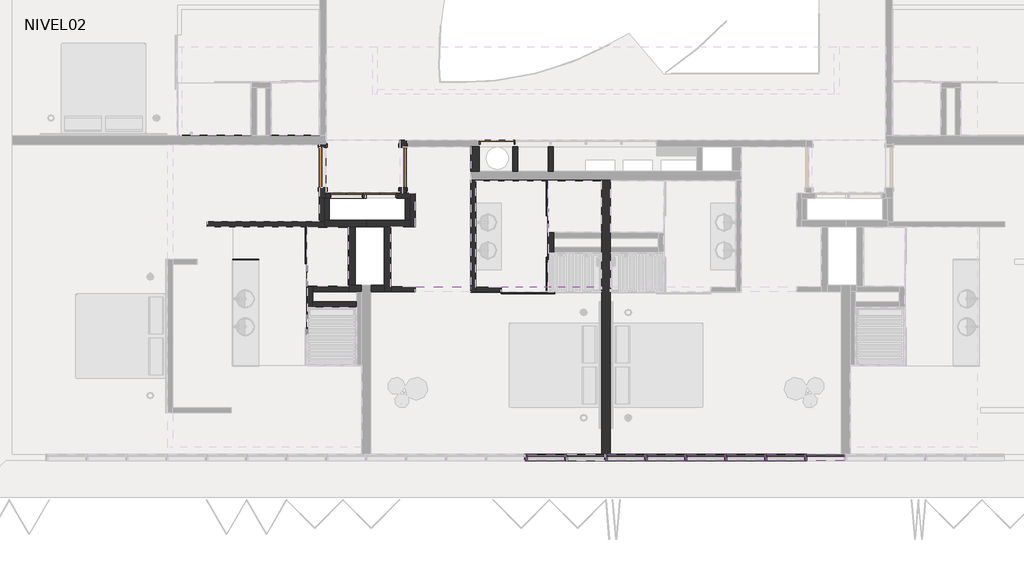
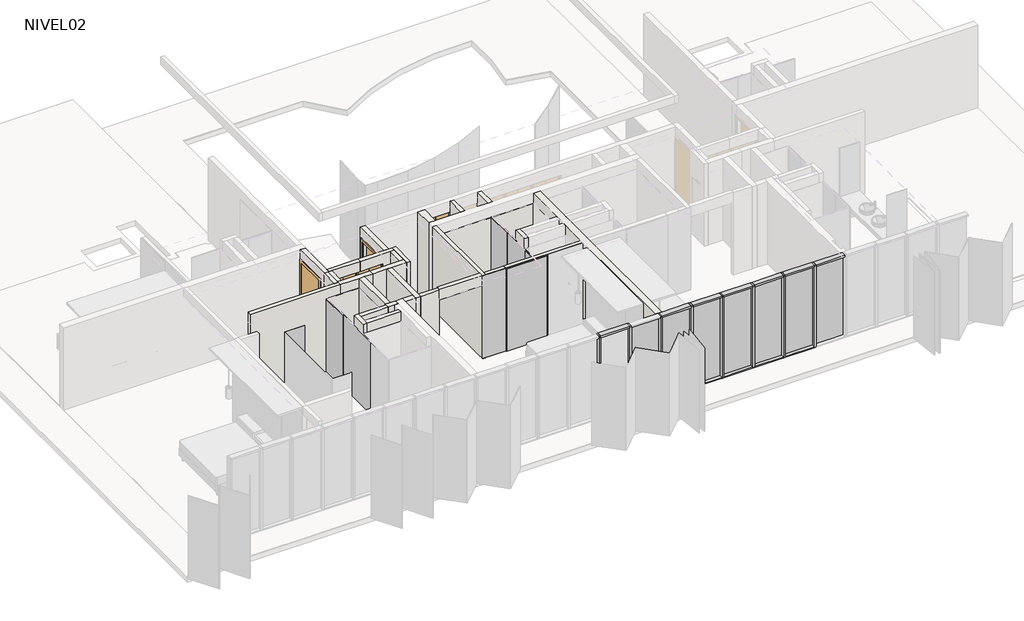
# One storey, part 2 of 9: 36 walls, 22 members, 15 plates, 5 doors.
"""IFC4 building model written with IfcOpenShell, lengths in millimetres."""

from ifc_helpers import new_model, si_unit, frame, origin, place, context, project, spatial, polyline, outline, extrude, faceted_brep, transform, mapped, element, save
from components import m_single_flush_910x_224_a4f79d59, m_single_flush_910x_224_d199ccfa, puerta_closet_shaft_75_x_232cm_9b8c6cb1, puerta_closet_shaft_75_x_232cm_f7ce9964, puerta_closet_shaft_80_x_232cm_003f94e8, rectangular_mullion_50_x_150mm_324a6438, rectangular_mullion_50_x_150mm_33c2bde1, panel_corredera_cr_panel_corredera_e449a94a, panel_corredera_cr_panel_corredera_4796692a, panel_corredera_cr_panel_corredera_db6cee18, panel_corredera_cr_panel_corredera_0b5135b5, system_panel_cr_shower_306accba, system_panel_cr_shower_4114597a, system_panel_cr_shower_91ed7f58, system_panel_cr_shower_c062e60c, system_panel_glazed_6ccc6dc1

model = new_model("IFC4")

# Units and contexts
model_context = context("Model", 3, world=origin())
ifc_project = project(units=[si_unit("LENGTHUNIT", "METRE", prefix="MILLI")], contexts=[model_context])

# Site, building, storey
site = spatial("IfcSite", under=ifc_project)
building = spatial("IfcBuilding", under=site)
storey = spatial("IfcBuildingStorey", under=building, Name="NIVEL02", Elevation=2500.0)

# Doors
placement = place(None, origin())
m_single_flush_910x_224_shape = m_single_flush_910x_224_a4f79d59(model_context)
element("IfcDoor", 1, ObjectType="M_Single-Flush : 910x 224", at=placement, inside=storey, context=model_context, shape_type="MappedRepresentation", body=[
    mapped(m_single_flush_910x_224_shape, transform((-13568.5934748, -883.5860759, 2500.0), x_axis=(0.0, 1.0, 0.0), y_axis=(-1.0, 0.0, 0.0), z_axis=(0.0, 0.0, 1.0))),
])
m_single_flush_910x_224_2_shape = m_single_flush_910x_224_d199ccfa(model_context)
element("IfcDoor", 2, ObjectType="M_Single-Flush : 910x 224", at=placement, inside=storey, context=model_context, shape_type="MappedRepresentation", body=[
    mapped(m_single_flush_910x_224_2_shape, transform((-11758.5934748, -883.5860759, 2500.0), x_axis=(0.0, 1.0, 0.0), y_axis=(-1.0, 0.0, 0.0), z_axis=(0.0, 0.0, 1.0))),
])
puerta_closet_shaft_75_x_232cm_shape = puerta_closet_shaft_75_x_232cm_9b8c6cb1(model_context)
element("IfcDoor", 3, ObjectType="PUERTA CLOSET SHAFT : 75 x 232cm", at=placement, inside=storey, context=model_context, shape_type="MappedRepresentation", body=[
    mapped(puerta_closet_shaft_75_x_232cm_shape, transform((-11887.061904, -1521.0860759, 2500.0), x_axis=(1.0, 0.0, 0.0), y_axis=(0.0, 1.0, 0.0), z_axis=(0.0, 0.0, 1.0))),
])
puerta_closet_shaft_75_x_232cm_2_shape = puerta_closet_shaft_75_x_232cm_f7ce9964(model_context)
element("IfcDoor", 4, ObjectType="PUERTA CLOSET SHAFT : 75 x 232cm", at=placement, inside=storey, context=model_context, shape_type="MappedRepresentation", body=[
    mapped(puerta_closet_shaft_75_x_232cm_2_shape, transform((-13420.1250457, -1521.0860759, 2500.0), x_axis=(-1.0, 0.0, 0.0), y_axis=(0.0, -1.0, 0.0), z_axis=(0.0, 0.0, 1.0))),
])
puerta_closet_shaft_80_x_232cm_shape = puerta_closet_shaft_80_x_232cm_003f94e8(model_context)
element("IfcDoor", 5, ObjectType="PUERTA CLOSET SHAFT : 80 x 232cm", at=placement, inside=storey, context=model_context, shape_type="MappedRepresentation", body=[
    mapped(puerta_closet_shaft_80_x_232cm_shape, transform((-8492.061904, -341.0860759, 2500.0), x_axis=(1.0, 0.0, 0.0), y_axis=(0.0, 1.0, 0.0), z_axis=(0.0, 0.0, 1.0))),
])

# Members
rectangular_mullion_50_x_150mm_shape = rectangular_mullion_50_x_150mm_324a6438(model_context)
element("IfcMember", 6, ObjectType="Rectangular Mullion : 50 x 150mm", at=placement, inside=storey, context=model_context, shape_type="MappedRepresentation", body=[
    mapped(rectangular_mullion_50_x_150mm_shape, transform((-2658.5934748, -7416.0860759, 5050.0), x_axis=(0.0, 0.0, 1.0), y_axis=(0.0, 1.0, 0.0), z_axis=(-1.0, 0.0, 0.0))),
])
element("IfcMember", 7, ObjectType="Rectangular Mullion : 50 x 150mm", at=placement, inside=storey, context=model_context, shape_type="MappedRepresentation", body=[
    mapped(rectangular_mullion_50_x_150mm_shape, transform((-3558.5934748, -7416.0860759, 5050.0), x_axis=(0.0, 0.0, 1.0), y_axis=(0.0, 1.0, 0.0), z_axis=(-1.0, 0.0, 0.0))),
])
element("IfcMember", 8, ObjectType="Rectangular Mullion : 50 x 150mm", at=placement, inside=storey, context=model_context, shape_type="MappedRepresentation", body=[
    mapped(rectangular_mullion_50_x_150mm_shape, transform((-4458.5934748, -7416.0860759, 5050.0), x_axis=(0.0, 0.0, 1.0), y_axis=(0.0, 1.0, 0.0), z_axis=(-1.0, 0.0, 0.0))),
])
element("IfcMember", 9, ObjectType="Rectangular Mullion : 50 x 150mm", at=placement, inside=storey, context=model_context, shape_type="MappedRepresentation", body=[
    mapped(rectangular_mullion_50_x_150mm_shape, transform((-5358.5934748, -7416.0860759, 5050.0), x_axis=(0.0, 0.0, 1.0), y_axis=(0.0, 1.0, 0.0), z_axis=(-1.0, 0.0, 0.0))),
])
element("IfcMember", 10, ObjectType="Rectangular Mullion : 50 x 150mm", at=placement, inside=storey, context=model_context, shape_type="MappedRepresentation", body=[
    mapped(rectangular_mullion_50_x_150mm_shape, transform((-6258.5934748, -7416.0860759, 5050.0), x_axis=(0.0, 0.0, 1.0), y_axis=(0.0, 1.0, 0.0), z_axis=(-1.0, 0.0, 0.0))),
])
element("IfcMember", 11, ObjectType="Rectangular Mullion : 50 x 150mm", at=placement, inside=storey, context=model_context, shape_type="MappedRepresentation", body=[
    mapped(rectangular_mullion_50_x_150mm_shape, transform((-7158.5934748, -7416.0860759, 5050.0), x_axis=(0.0, 0.0, 1.0), y_axis=(0.0, 1.0, 0.0), z_axis=(-1.0, 0.0, 0.0))),
])
element("IfcMember", 12, ObjectType="Rectangular Mullion : 50 x 150mm", at=placement, inside=storey, context=model_context, shape_type="MappedRepresentation", body=[
    mapped(rectangular_mullion_50_x_150mm_shape, transform((-8958.5934748, -7416.0860759, 5050.0), x_axis=(0.0, 0.0, 1.0), y_axis=(0.0, 1.0, 0.0), z_axis=(-1.0, 0.0, 0.0))),
])
element("IfcMember", 13, ObjectType="Rectangular Mullion : 50 x 150mm", at=placement, inside=storey, context=model_context, shape_type="MappedRepresentation", body=[
    mapped(rectangular_mullion_50_x_150mm_shape, transform((-2708.5934748, -7416.0860759, 2480.0), x_axis=(0.0, 0.0, -1.0), y_axis=(0.0, 1.0, 0.0), z_axis=(1.0, 0.0, 0.0))),
])
element("IfcMember", 14, ObjectType="Rectangular Mullion : 50 x 150mm", at=placement, inside=storey, context=model_context, shape_type="MappedRepresentation", body=[
    mapped(rectangular_mullion_50_x_150mm_shape, transform((-3608.5934748, -7416.0860759, 2480.0), x_axis=(0.0, 0.0, -1.0), y_axis=(0.0, 1.0, 0.0), z_axis=(1.0, 0.0, 0.0))),
])
element("IfcMember", 15, ObjectType="Rectangular Mullion : 50 x 150mm", at=placement, inside=storey, context=model_context, shape_type="MappedRepresentation", body=[
    mapped(rectangular_mullion_50_x_150mm_shape, transform((-4508.5934748, -7416.0860759, 2480.0), x_axis=(0.0, 0.0, -1.0), y_axis=(0.0, 1.0, 0.0), z_axis=(1.0, 0.0, 0.0))),
])
element("IfcMember", 16, ObjectType="Rectangular Mullion : 50 x 150mm", at=placement, inside=storey, context=model_context, shape_type="MappedRepresentation", body=[
    mapped(rectangular_mullion_50_x_150mm_shape, transform((-5408.5934748, -7416.0860759, 2480.0), x_axis=(0.0, 0.0, -1.0), y_axis=(0.0, 1.0, 0.0), z_axis=(1.0, 0.0, 0.0))),
])
element("IfcMember", 17, ObjectType="Rectangular Mullion : 50 x 150mm", at=placement, inside=storey, context=model_context, shape_type="MappedRepresentation", body=[
    mapped(rectangular_mullion_50_x_150mm_shape, transform((-6308.5934748, -7416.0860759, 2480.0), x_axis=(0.0, 0.0, -1.0), y_axis=(0.0, 1.0, 0.0), z_axis=(1.0, 0.0, 0.0))),
])
element("IfcMember", 18, ObjectType="Rectangular Mullion : 50 x 150mm", at=placement, inside=storey, context=model_context, shape_type="MappedRepresentation", body=[
    mapped(rectangular_mullion_50_x_150mm_shape, transform((-7208.5934748, -7416.0860759, 2480.0), x_axis=(0.0, 0.0, -1.0), y_axis=(0.0, 1.0, 0.0), z_axis=(1.0, 0.0, 0.0))),
])
element("IfcMember", 19, ObjectType="Rectangular Mullion : 50 x 150mm", at=placement, inside=storey, context=model_context, shape_type="MappedRepresentation", body=[
    mapped(rectangular_mullion_50_x_150mm_shape, transform((-8108.5934748, -7416.0860759, 2480.0), x_axis=(0.0, 0.0, -1.0), y_axis=(0.0, 1.0, 0.0), z_axis=(1.0, 0.0, 0.0))),
])
rectangular_mullion_50_x_150mm_2_shape = rectangular_mullion_50_x_150mm_33c2bde1(model_context)
element("IfcMember", 20, ObjectType="Rectangular Mullion : 50 x 150mm", at=placement, inside=storey, context=model_context, shape_type="MappedRepresentation", body=[
    mapped(rectangular_mullion_50_x_150mm_2_shape, transform((-2683.5934748, -7416.0860759, 2480.0), x_axis=(-1.0, 0.0, 0.0), y_axis=(0.0, 1.0, 0.0), z_axis=(0.0, 0.0, -1.0))),
])
element("IfcMember", 21, ObjectType="Rectangular Mullion : 50 x 150mm", at=placement, inside=storey, context=model_context, shape_type="MappedRepresentation", body=[
    mapped(rectangular_mullion_50_x_150mm_2_shape, transform((-3583.5934748, -7416.0860759, 2480.0), x_axis=(-1.0, 0.0, 0.0), y_axis=(0.0, 1.0, 0.0), z_axis=(0.0, 0.0, -1.0))),
])
element("IfcMember", 22, ObjectType="Rectangular Mullion : 50 x 150mm", at=placement, inside=storey, context=model_context, shape_type="MappedRepresentation", body=[
    mapped(rectangular_mullion_50_x_150mm_2_shape, transform((-4483.5934748, -7416.0860759, 2480.0), x_axis=(-1.0, 0.0, 0.0), y_axis=(0.0, 1.0, 0.0), z_axis=(0.0, 0.0, -1.0))),
])
element("IfcMember", 23, ObjectType="Rectangular Mullion : 50 x 150mm", at=placement, inside=storey, context=model_context, shape_type="MappedRepresentation", body=[
    mapped(rectangular_mullion_50_x_150mm_2_shape, transform((-5383.5934748, -7416.0860759, 2480.0), x_axis=(-1.0, 0.0, 0.0), y_axis=(0.0, 1.0, 0.0), z_axis=(0.0, 0.0, -1.0))),
])
element("IfcMember", 24, ObjectType="Rectangular Mullion : 50 x 150mm", at=placement, inside=storey, context=model_context, shape_type="MappedRepresentation", body=[
    mapped(rectangular_mullion_50_x_150mm_2_shape, transform((-6283.5934748, -7416.0860759, 2480.0), x_axis=(-1.0, 0.0, 0.0), y_axis=(0.0, 1.0, 0.0), z_axis=(0.0, 0.0, -1.0))),
])
element("IfcMember", 25, ObjectType="Rectangular Mullion : 50 x 150mm", at=placement, inside=storey, context=model_context, shape_type="MappedRepresentation", body=[
    mapped(rectangular_mullion_50_x_150mm_2_shape, transform((-7183.5934748, -7416.0860759, 2480.0), x_axis=(-1.0, 0.0, 0.0), y_axis=(0.0, 1.0, 0.0), z_axis=(0.0, 0.0, -1.0))),
])
element("IfcMember", 26, ObjectType="Rectangular Mullion : 50 x 150mm", at=placement, inside=storey, context=model_context, shape_type="MappedRepresentation", body=[
    mapped(rectangular_mullion_50_x_150mm_2_shape, transform((-8083.5934748, -7416.0860759, 2480.0), x_axis=(-1.0, 0.0, 0.0), y_axis=(0.0, 1.0, 0.0), z_axis=(0.0, 0.0, -1.0))),
])
element("IfcMember", 27, ObjectType="Rectangular Mullion : 50 x 150mm", at=placement, inside=storey, context=model_context, shape_type="MappedRepresentation", body=[
    mapped(rectangular_mullion_50_x_150mm_2_shape, transform((-8983.5934748, -7416.0860759, 2480.0), x_axis=(-1.0, 0.0, 0.0), y_axis=(0.0, 1.0, 0.0), z_axis=(0.0, 0.0, -1.0))),
])

# Plates
panel_corredera_cr_panel_corredera_shape = panel_corredera_cr_panel_corredera_e449a94a(model_context)
element("IfcPlate", 28, ObjectType="PANEL CORREDERA : CR_PANEL CORREDERA", at=placement, inside=storey, context=model_context, shape_type="MappedRepresentation", body=[
    mapped(panel_corredera_cr_panel_corredera_shape, transform((-13913.6434748, -2560.8259695, 2500.0), x_axis=(0.0, -1.0, 0.0), y_axis=(1.0, 0.0, 0.0), z_axis=(0.0, 0.0, 1.0))),
])
panel_corredera_cr_panel_corredera_2_shape = panel_corredera_cr_panel_corredera_4796692a(model_context)
element("IfcPlate", 29, ObjectType="PANEL CORREDERA : CR_PANEL CORREDERA", at=placement, inside=storey, context=model_context, shape_type="MappedRepresentation", body=[
    mapped(panel_corredera_cr_panel_corredera_2_shape, transform((-8483.5947993, -3371.0862189, 2500.0), x_axis=(0.0, 1.0, 0.0), y_axis=(-1.0, 0.0, 0.0), z_axis=(0.0, 0.0, 1.0))),
])
panel_corredera_cr_panel_corredera_3_shape = panel_corredera_cr_panel_corredera_db6cee18(model_context)
element("IfcPlate", 30, ObjectType="PANEL CORREDERA : CR_PANEL CORREDERA", at=placement, inside=storey, context=model_context, shape_type="MappedRepresentation", body=[
    mapped(panel_corredera_cr_panel_corredera_3_shape, transform((-8483.5947993, -1491.0860759, 2500.0), x_axis=(0.0, -1.0, 0.0), y_axis=(1.0, 0.0, 0.0), z_axis=(0.0, 0.0, 1.0))),
])
panel_corredera_cr_panel_corredera_4_shape = panel_corredera_cr_panel_corredera_0b5135b5(model_context)
element("IfcPlate", 31, ObjectType="PANEL CORREDERA : CR_PANEL CORREDERA", at=placement, inside=storey, context=model_context, shape_type="MappedRepresentation", body=[
    mapped(panel_corredera_cr_panel_corredera_4_shape, transform((-9013.5934748, -3686.0862189, 2500.0), x_axis=(1.0, 0.0, 0.0), y_axis=(0.0, 1.0, 0.0), z_axis=(0.0, 0.0, 1.0))),
])
system_panel_cr_shower_shape = system_panel_cr_shower_306accba(model_context)
element("IfcPlate", 32, ObjectType="System Panel : CR-SHOWER", at=placement, inside=storey, context=model_context, shape_type="MappedRepresentation", body=[
    mapped(system_panel_cr_shower_shape, transform((-9888.5934748, -3686.0862189, 2500.0), x_axis=(-1.0, 0.0, 0.0), y_axis=(0.0, -1.0, 0.0), z_axis=(0.0, 0.0, 1.0))),
])
system_panel_cr_shower_2_shape = system_panel_cr_shower_4114597a(model_context)
element("IfcPlate", 33, ObjectType="System Panel : CR-SHOWER", at=placement, inside=storey, context=model_context, shape_type="MappedRepresentation", body=[
    mapped(system_panel_cr_shower_2_shape, transform((-15303.5934748, -2966.0860763, 2500.0), x_axis=(-1.0, 0.0, 0.0), y_axis=(0.0, -1.0, 0.0), z_axis=(0.0, 0.0, 1.0))),
])
system_panel_cr_shower_3_shape = system_panel_cr_shower_91ed7f58(model_context)
element("IfcPlate", 34, ObjectType="System Panel : CR-SHOWER", at=placement, inside=storey, context=model_context, shape_type="MappedRepresentation", body=[
    mapped(system_panel_cr_shower_3_shape, transform((-13913.6434748, -3776.2845441, 2500.0), x_axis=(0.0, 1.0, 0.0), y_axis=(-1.0, 0.0, 0.0), z_axis=(0.0, 0.0, 1.0))),
])
system_panel_cr_shower_4_shape = system_panel_cr_shower_c062e60c(model_context)
element("IfcPlate", 35, ObjectType="System Panel : CR-SHOWER", at=placement, inside=storey, context=model_context, shape_type="MappedRepresentation", body=[
    mapped(system_panel_cr_shower_4_shape, transform((-8483.5947993, -2436.0861474, 2500.0), x_axis=(0.0, 1.0, 0.0), y_axis=(-1.0, 0.0, 0.0), z_axis=(0.0, 0.0, 1.0))),
])
system_panel_glazed_shape = system_panel_glazed_6ccc6dc1(model_context)
element("IfcPlate", 36, ObjectType="System Panel : Glazed", at=placement, inside=storey, context=model_context, shape_type="MappedRepresentation", body=[
    mapped(system_panel_glazed_shape, transform((-2233.5934748, -7416.0860759, 2530.0), x_axis=(-1.0, 0.0, 0.0), y_axis=(0.0, -1.0, 0.0), z_axis=(0.0, 0.0, 1.0))),
])
element("IfcPlate", 37, ObjectType="System Panel : Glazed", at=placement, inside=storey, context=model_context, shape_type="MappedRepresentation", body=[
    mapped(system_panel_glazed_shape, transform((-3133.5934748, -7416.0860759, 2530.0), x_axis=(-1.0, 0.0, 0.0), y_axis=(0.0, -1.0, 0.0), z_axis=(0.0, 0.0, 1.0))),
])
element("IfcPlate", 38, ObjectType="System Panel : Glazed", at=placement, inside=storey, context=model_context, shape_type="MappedRepresentation", body=[
    mapped(system_panel_glazed_shape, transform((-4033.5934748, -7416.0860759, 2530.0), x_axis=(-1.0, 0.0, 0.0), y_axis=(0.0, -1.0, 0.0), z_axis=(0.0, 0.0, 1.0))),
])
element("IfcPlate", 39, ObjectType="System Panel : Glazed", at=placement, inside=storey, context=model_context, shape_type="MappedRepresentation", body=[
    mapped(system_panel_glazed_shape, transform((-4933.5934748, -7416.0860759, 2530.0), x_axis=(-1.0, 0.0, 0.0), y_axis=(0.0, -1.0, 0.0), z_axis=(0.0, 0.0, 1.0))),
])
element("IfcPlate", 40, ObjectType="System Panel : Glazed", at=placement, inside=storey, context=model_context, shape_type="MappedRepresentation", body=[
    mapped(system_panel_glazed_shape, transform((-5833.5934748, -7416.0860759, 2530.0), x_axis=(-1.0, 0.0, 0.0), y_axis=(0.0, -1.0, 0.0), z_axis=(0.0, 0.0, 1.0))),
])
element("IfcPlate", 41, ObjectType="System Panel : Glazed", at=placement, inside=storey, context=model_context, shape_type="MappedRepresentation", body=[
    mapped(system_panel_glazed_shape, transform((-6733.5934748, -7416.0860759, 2530.0), x_axis=(-1.0, 0.0, 0.0), y_axis=(0.0, -1.0, 0.0), z_axis=(0.0, 0.0, 1.0))),
])
element("IfcPlate", 42, ObjectType="System Panel : Glazed", at=placement, inside=storey, context=model_context, shape_type="MappedRepresentation", body=[
    mapped(system_panel_glazed_shape, transform((-7633.5934748, -7416.0860759, 2530.0), x_axis=(-1.0, 0.0, 0.0), y_axis=(0.0, -1.0, 0.0), z_axis=(0.0, 0.0, 1.0))),
])

# Walls
element("IfcWall", 43, ObjectType="SCV.TI.A.110.090.143.47.1", at=placement, inside=storey, context=model_context, shape_type="SweptSolid", body=[
    extrude(outline(polyline([(-9283.5934748, -966.0860759), (-9283.5934748, -416.0860759), (-9173.5934748, -416.0860759), (-9173.5934748, -966.0860759), (-9283.5934748, -966.0860759)])), frame((0.0, 0.0, 2480.0), z_axis=(0.0, 0.0, 1.0), x_axis=(1.0, 0.0, 0.0)), (0.0, 0.0, 1.0), 2570.0),
])
element("IfcWall", 44, ObjectType="SCV.TI.A.110.090.143.47.1", at=placement, inside=storey, context=model_context, shape_type="Brep", body=[
    faceted_brep([(-13533.5934748, -2106.0860759, 2480.0), (-13643.5934748, -2106.0860759, 2480.0), (-16173.5934748, -2106.0860759, 2480.0), (-16173.5934748, -2106.0860759, 5050.0), (-13643.5934748, -2106.0860759, 5050.0), (-13533.5934748, -2106.0860759, 5050.0), (-13533.5934748, -2216.0860759, 2480.0), (-13533.5934748, -2216.0860759, 5050.0), (-16173.5934748, -2216.0860759, 5050.0), (-16173.5934748, -2216.0860759, 2480.0)], [[[0, 1, 2, 3, 4, 5]], [[6, 7, 8, 9]], [[2, 1, 0, 6, 9]], [[3, 2, 9, 8]], [[5, 4, 3, 8, 7]], [[0, 5, 7, 6]]]),
])
element("IfcWall", 45, ObjectType="SCV.TI.A.120.120.122.46.2", at=placement, inside=storey, context=model_context, shape_type="SweptSolid", body=[
    extrude(outline(polyline([(-13793.5934748, -3906.0862189), (-12803.5934748, -3906.0862189), (-12803.5934748, -4026.0862189), (-13793.5934748, -4026.0862189), (-13793.5934748, -3906.0862189)])), frame((0.0, 0.0, 2480.0), z_axis=(0.0, 0.0, 1.0), x_axis=(1.0, 0.0, 0.0)), (0.0, 0.0, 1.0), 2570.0),
])
element("IfcWall", 46, ObjectType="SCV.TI.A.120.120.122.46.2", at=placement, inside=storey, context=model_context, shape_type="Brep", body=[
    faceted_brep([(-13793.5934748, -4026.0862189, 2480.0), (-13793.5934748, -3906.0862189, 2480.0), (-13793.5934748, -3686.0862189, 2480.0), (-13793.5934748, -3566.0862189, 2480.0), (-13793.5934748, -3566.0862189, 5050.0), (-13793.5934748, -3686.0862189, 5050.0), (-13793.5934748, -3906.0862189, 5050.0), (-13793.5934748, -4026.0862189, 5050.0), (-13913.5934748, -4026.0862189, 2480.0), (-13913.5934748, -4026.0862189, 5050.0), (-13913.5934748, -3566.0862189, 5050.0), (-13913.5934748, -3566.0862189, 2480.0)], [[[0, 1, 2, 3, 4, 5, 6, 7]], [[8, 9, 10, 11]], [[3, 2, 1, 0, 8, 11]], [[7, 6, 5, 4, 10, 9]], [[4, 3, 11, 10]], [[0, 7, 9, 8]]]),
])
element("IfcWall", 47, ObjectType="SCV.TI.A.120.120.122.46.2", at=placement, inside=storey, context=model_context, shape_type="SweptSolid", body=[
    extrude(outline(polyline([(-12983.5934748, -3686.0862189), (-13793.5934748, -3686.0862189), (-13793.5934748, -3566.0862189), (-12983.5934748, -3566.0862189), (-12983.5934748, -3686.0862189)])), frame((0.0, 0.0, 2480.0), z_axis=(0.0, 0.0, 1.0), x_axis=(1.0, 0.0, 0.0)), (0.0, 0.0, 1.0), 2570.0),
])
element("IfcWall", 48, ObjectType="SCV.TI.A.110.090.143.47.1", at=placement, inside=storey, context=model_context, shape_type="Brep", body=[
    faceted_brep([(-13493.5934748, -1576.0860759, 2480.0), (-13423.5934748, -1576.0860759, 2480.0), (-12589.1569667, -1576.0860759, 2480.0), (-12589.1569667, -1576.0860759, 2500.0), (-13403.5934748, -1576.0860759, 2500.0), (-13403.5934748, -1576.0860759, 4740.0), (-12589.1569667, -1576.0860759, 4740.0), (-12589.1569667, -1576.0860759, 5050.0), (-13423.5934748, -1576.0860759, 5050.0), (-13493.5934748, -1576.0860759, 5050.0), (-12589.1569667, -1466.0860759, 2480.0), (-13493.5934748, -1466.0860759, 2480.0), (-13493.5934748, -1466.0860759, 5050.0), (-12589.1569667, -1466.0860759, 5050.0), (-12589.1569667, -1466.0860759, 4740.0), (-13403.5934748, -1466.0860759, 4740.0), (-13403.5934748, -1466.0860759, 2500.0), (-12589.1569667, -1466.0860759, 2500.0)], [[[0, 1, 2, 3, 4, 5, 6, 7, 8, 9]], [[10, 11, 12, 13, 14, 15, 16, 17]], [[2, 1, 0, 11, 10]], [[2, 10, 17, 3]], [[13, 7, 6, 14]], [[9, 8, 7, 13, 12]], [[5, 15, 14, 6]], [[16, 4, 3, 17]], [[4, 16, 15, 5]], [[0, 9, 12, 11]]]),
])
element("IfcWall", 49, ObjectType="SCV.TI.A.150.120.212.47.1", at=placement, inside=storey, context=model_context, shape_type="Brep", body=[
    faceted_brep([(-13643.5934748, -366.0860759, 2480.0), (-13643.5934748, -1576.0860759, 2480.0), (-13643.5934748, -1576.0860759, 5050.0), (-13643.5934748, -366.0860759, 5050.0), (-13643.5934748, -1341.0860759, 2500.0), (-13643.5934748, -426.0860759, 2500.0), (-13643.5934748, -426.0860759, 4700.0), (-13643.5934748, -1341.0860759, 4700.0), (-13493.5934748, -1576.0860759, 2480.0), (-13493.5934748, -1466.0860759, 2480.0), (-13493.5934748, -366.0860759, 2480.0), (-13493.5934748, -366.0860759, 5050.0), (-13493.5934748, -1466.0860759, 5050.0), (-13493.5934748, -1576.0860759, 5050.0), (-13493.5934748, -426.0860759, 2500.0), (-13493.5934748, -1341.0860759, 2500.0), (-13493.5934748, -1341.0860759, 4700.0), (-13493.5934748, -426.0860759, 4700.0), (-13533.5934748, -1576.0860759, 2480.0), (-13533.5934748, -1576.0860759, 5050.0)], [[[0, 1, 2, 3], [4, 5, 6, 7]], [[8, 9, 10, 11, 12, 13], [14, 15, 16, 17]], [[1, 0, 10, 9, 8, 18]], [[3, 2, 19, 13, 12, 11]], [[4, 15, 14, 5]], [[6, 17, 16, 7]], [[15, 4, 7, 16]], [[17, 6, 5, 14]], [[2, 1, 18, 8, 13, 19]], [[0, 3, 11, 10]]]),
])
element("IfcWall", 50, ObjectType="SCV.TI.A.150.120.212.47.1", at=placement, inside=storey, context=model_context, shape_type="Brep", body=[
    faceted_brep([(-13533.5934748, -2216.0860759, 2480.0), (-12983.5934748, -2216.0860759, 2480.0), (-12833.5934748, -2216.0860759, 2480.0), (-12583.5934748, -2216.0860759, 2480.0), (-12583.5934748, -2216.0860759, 5050.0), (-12833.5934748, -2216.0860759, 5050.0), (-12983.5934748, -2216.0860759, 5050.0), (-13533.5934748, -2216.0860759, 5050.0), (-13533.5934748, -2066.0860759, 2480.0), (-13533.5934748, -2066.0860759, 5050.0), (-13423.5934748, -2066.0860759, 5050.0), (-12583.5934748, -2066.0860759, 5050.0), (-12583.5934748, -2066.0860759, 2480.0), (-13423.5934748, -2066.0860759, 2480.0), (-13533.5934748, -2106.0860759, 2480.0), (-13533.5934748, -2106.0860759, 5050.0)], [[[0, 1, 2, 3, 4, 5, 6, 7]], [[8, 9, 10, 11, 12, 13]], [[3, 2, 1, 0, 14, 8, 13, 12]], [[4, 3, 12, 11]], [[7, 6, 5, 4, 11, 10, 9, 15]], [[0, 7, 15, 9, 8, 14]]]),
])
element("IfcWall", 51, ObjectType="SCV.TI.A.110.090.143.47.1", at=placement, inside=storey, context=model_context, shape_type="SweptSolid", body=[
    extrude(outline(polyline([(-12033.5934748, -3571.0862189), (-11483.5934748, -3571.0862189), (-11483.5934748, -3681.0862189), (-12033.5934748, -3681.0862189), (-12033.5934748, -3571.0862189)])), frame((0.0, 0.0, 2500.0), z_axis=(0.0, 0.0, 1.0), x_axis=(1.0, 0.0, 0.0)), (0.0, 0.0, 1.0), 2550.0),
])
element("IfcWall", 52, ObjectType="SCV.TI.A.110.090.143.47.1", at=placement, inside=storey, context=model_context, shape_type="Brep", body=[
    faceted_brep([(-12589.1569667, -1466.0860759, 5050.0), (-11833.5934748, -1466.0860759, 5050.0), (-11683.5934748, -1466.0860759, 5050.0), (-11593.5934748, -1466.0860759, 5050.0), (-11593.5934748, -1466.0860759, 2500.0), (-11683.5934748, -1466.0860759, 2500.0), (-11833.5934748, -1466.0860759, 2500.0), (-11903.5934748, -1466.0860759, 2500.0), (-11903.5934748, -1466.0860759, 4740.0), (-12589.1569667, -1466.0860759, 4740.0), (-11593.5934748, -1576.0860759, 5050.0), (-12589.1569667, -1576.0860759, 5050.0), (-12589.1569667, -1576.0860759, 4740.0), (-11903.5934748, -1576.0860759, 4740.0), (-11903.5934748, -1576.0860759, 2500.0), (-11593.5934748, -1576.0860759, 2500.0)], [[[0, 1, 2, 3, 4, 5, 6, 7, 8, 9]], [[10, 11, 12, 13, 14, 15]], [[4, 15, 14, 7, 6, 5]], [[11, 0, 9, 12]], [[3, 2, 1, 0, 11, 10]], [[8, 13, 12, 9]], [[13, 8, 7, 14]], [[4, 3, 10, 15]]]),
])
element("IfcWall", 53, ObjectType="SCV.TI.A.150.120.212.47.1", at=placement, inside=storey, context=model_context, shape_type="Brep", body=[
    faceted_brep([(-11833.5934748, -1466.0860759, 5050.0), (-11833.5934748, -266.0860759, 5050.0), (-11833.5934748, -266.0860759, 2500.0), (-11833.5934748, -426.0860759, 2500.0), (-11833.5934748, -426.0860759, 4700.0), (-11833.5934748, -1341.0860759, 4700.0), (-11833.5934748, -1341.0860759, 2500.0), (-11833.5934748, -1466.0860759, 2500.0), (-11683.5934748, -266.0860759, 5050.0), (-11683.5934748, -416.0860759, 5050.0), (-11683.5934748, -1466.0860759, 5050.0), (-11683.5934748, -1466.0860759, 2500.0), (-11683.5934748, -1341.0860759, 2500.0), (-11683.5934748, -1341.0860759, 4700.0), (-11683.5934748, -426.0860759, 4700.0), (-11683.5934748, -426.0860759, 2500.0), (-11683.5934748, -266.0860759, 2500.0)], [[[0, 1, 2, 3, 4, 5, 6, 7]], [[8, 9, 10, 11, 12, 13, 14, 15, 16]], [[2, 16, 15, 3]], [[11, 7, 6, 12]], [[1, 0, 10, 9, 8]], [[4, 14, 13, 5]], [[5, 13, 12, 6]], [[14, 4, 3, 15]], [[2, 1, 8, 16]], [[0, 7, 11, 10]]]),
])
element("IfcWall", 54, ObjectType="SCV.TI.A.110.090.143.47.1", at=placement, inside=storey, context=model_context, shape_type="Brep", body=[
    faceted_brep([(-10233.5934748, -1166.0860759, 2480.0), (-10233.5934748, -3686.0862189, 2480.0), (-10233.5934748, -3686.0862189, 4750.0), (-10233.5934748, -3686.0862189, 5050.0), (-10233.5934748, -1166.0860759, 5050.0), (-10123.5934748, -1166.0860759, 2480.0), (-10123.5934748, -1166.0860759, 5050.0), (-10123.5934748, -3576.0862189, 5050.0), (-10123.5934748, -3686.0862189, 5050.0), (-10123.5934748, -3686.0862189, 2500.0), (-10123.5934748, -3686.0862189, 2480.0)], [[[0, 1, 2, 3, 4]], [[5, 6, 7, 8, 9, 10]], [[1, 0, 5, 10]], [[4, 3, 8, 7, 6]], [[3, 2, 1, 10, 9, 8]], [[0, 4, 6, 5]]]),
])
element("IfcWall", 55, ObjectType="SCV.TI.A.150.120.212.47.1", at=placement, inside=storey, context=model_context, shape_type="Brep", body=[
    faceted_brep([(-11593.5934748, -2066.0860759, 2500.0), (-12583.5934748, -2066.0860759, 2500.0), (-12583.5934748, -2066.0860759, 5050.0), (-11593.5934748, -2066.0860759, 5050.0), (-11593.5934748, -2216.0860759, 2500.0), (-11593.5934748, -2216.0860759, 5050.0), (-12033.5934748, -2216.0860759, 5050.0), (-12183.5934748, -2216.0860759, 5050.0), (-12583.5934748, -2216.0860759, 5050.0), (-12583.5934748, -2216.0860759, 2500.0), (-12183.5934748, -2216.0860759, 2500.0), (-12033.5934748, -2216.0860759, 2500.0)], [[[0, 1, 2, 3]], [[4, 5, 6, 7, 8, 9, 10, 11]], [[1, 0, 4, 11, 10, 9]], [[2, 1, 9, 8]], [[3, 2, 8, 7, 6, 5]], [[0, 3, 5, 4]]]),
])
element("IfcWall", 56, ObjectType="SCV.TI.A.110.090.143.47.1", at=placement, inside=storey, context=model_context, shape_type="Brep", body=[
    faceted_brep([(-11593.5934748, -1466.0860759, 2480.0), (-11593.5934748, -2216.0860759, 2480.0), (-11593.5934748, -2216.0860759, 2500.0), (-11593.5934748, -2216.0860759, 5050.0), (-11593.5934748, -2066.0860759, 5050.0), (-11593.5934748, -1576.0860759, 5050.0), (-11593.5934748, -1466.0860759, 5050.0), (-11593.5934748, -1466.0860759, 2500.0), (-11483.5934748, -1466.0860759, 2480.0), (-11483.5934748, -1466.0860759, 5050.0), (-11483.5934748, -2216.0860759, 5050.0), (-11483.5934748, -2216.0860759, 2480.0)], [[[0, 1, 2, 3, 4, 5, 6, 7]], [[8, 9, 10, 11]], [[1, 0, 8, 11]], [[6, 5, 4, 3, 10, 9]], [[3, 2, 1, 11, 10]], [[0, 7, 6, 9, 8]]]),
])
element("IfcWall", 57, ObjectType="SCV.TI.A.120.120.122.46.2", at=placement, inside=storey, context=model_context, shape_type="Brep", body=[
    faceted_brep([(-8363.5047394, -2796.0860759, 2500.0), (-8363.5047394, -2676.0860759, 2500.0), (-8363.5047394, -2476.0860759, 2500.0), (-8363.5047394, -2356.0860759, 2500.0), (-8363.5047394, -2356.0860759, 5050.0), (-8363.5047394, -2476.0860759, 5050.0), (-8363.5047394, -2676.0860759, 5050.0), (-8363.5047394, -2796.0860759, 5050.0), (-8483.5047394, -2796.0860759, 2500.0), (-8483.5047394, -2796.0860759, 5050.0), (-8483.5047394, -2356.0860759, 5050.0), (-8483.5047394, -2356.0860759, 2500.0)], [[[0, 1, 2, 3, 4, 5, 6, 7]], [[8, 9, 10, 11]], [[3, 2, 1, 0, 8, 11]], [[7, 6, 5, 4, 10, 9]], [[0, 7, 9, 8]], [[4, 3, 11, 10]]]),
])
element("IfcWall", 58, ObjectType="SCV.TI.A.110.090.143.47.1", at=placement, inside=storey, context=model_context, shape_type="SweptSolid", body=[
    extrude(outline(polyline([(-10123.5934748, -3576.0862189), (-9543.5934748, -3576.0862189), (-9543.5934748, -3686.0862189), (-10123.5934748, -3686.0862189), (-10123.5934748, -3576.0862189)])), frame((0.0, 0.0, 2500.0), z_axis=(0.0, 0.0, 1.0), x_axis=(1.0, 0.0, 0.0)), (0.0, 0.0, 1.0), 2550.0),
])
element("IfcWall", 59, ObjectType="REV-PORCELANATO_60*60", at=placement, inside=storey, context=model_context, shape_type="Brep", body=[
    faceted_brep([(-9543.5934748, -3586.0862189, 2500.0), (-10113.5934748, -3586.0862189, 2500.0), (-10123.5934748, -3586.0862189, 2500.0), (-10123.5934748, -3586.0862189, 4740.0), (-10113.5934748, -3586.0862189, 4740.0), (-9543.5934748, -3586.0862189, 4740.0), (-9543.5934748, -3596.0862189, 2500.0), (-9543.5934748, -3596.0862189, 4740.0), (-10123.5934748, -3596.0862189, 4740.0), (-10123.5934748, -3596.0862189, 2500.0)], [[[0, 1, 2, 3, 4, 5]], [[6, 7, 8, 9]], [[2, 1, 0, 6, 9]], [[5, 4, 3, 8, 7]], [[0, 5, 7, 6]], [[3, 2, 9, 8]]]),
])
element("IfcWall", 60, ObjectType="REV-PORCELANATO_60*60", at=placement, inside=storey, context=model_context, shape_type="Brep", body=[
    faceted_brep([(-10113.5934748, -3586.0862189, 2500.0), (-10113.5934748, -1176.0860759, 2500.0), (-10113.5934748, -1166.0860759, 2500.0), (-10113.5934748, -1166.0860759, 4740.0), (-10113.5934748, -1176.0860759, 4740.0), (-10113.5934748, -3586.0862189, 4740.0), (-10123.5934748, -3586.0862189, 2500.0), (-10123.5934748, -3586.0862189, 4740.0), (-10123.5934748, -1166.0860759, 4740.0), (-10123.5934748, -1166.0860759, 2500.0)], [[[0, 1, 2, 3, 4, 5]], [[6, 7, 8, 9]], [[2, 1, 0, 6, 9]], [[5, 4, 3, 8, 7]], [[3, 2, 9, 8]], [[0, 5, 7, 6]]]),
])
element("IfcWall", 61, ObjectType="REV-PORCELANATO_60*60", at=placement, inside=storey, context=model_context, shape_type="Brep", body=[
    faceted_brep([(-10113.5934748, -1176.0860759, 2500.0), (-7293.5934748, -1176.0860759, 2500.0), (-7283.5934748, -1176.0860759, 2500.0), (-7283.5934748, -1176.0860759, 4740.0), (-7293.5934748, -1176.0860759, 4740.0), (-10113.5934748, -1176.0860759, 4740.0), (-10113.5934748, -1166.0860759, 2500.0), (-10113.5934748, -1166.0860759, 4740.0), (-7283.5934748, -1166.0860759, 4740.0), (-7283.5934748, -1166.0860759, 2500.0)], [[[0, 1, 2, 3, 4, 5]], [[6, 7, 8, 9]], [[2, 1, 0, 6, 9]], [[5, 4, 3, 8, 7]], [[3, 2, 9, 8]], [[0, 5, 7, 6]]]),
])
element("IfcWall", 62, ObjectType="REV-PORCELANATO_60*60", at=placement, inside=storey, context=model_context, shape_type="Brep", body=[
    faceted_brep([(-13913.6434748, -3566.0862189, 2500.0), (-12983.5934748, -3566.0862189, 2500.0), (-12983.5934748, -3566.0862189, 4760.0), (-13913.6434748, -3566.0862189, 4760.0), (-13913.6434748, -3556.0862189, 2500.0), (-13913.6434748, -3556.0862189, 4760.0), (-12993.5934748, -3556.0862189, 4760.0), (-12983.5934748, -3556.0862189, 4760.0), (-12983.5934748, -3556.0862189, 2500.0), (-12993.5934748, -3556.0862189, 2500.0)], [[[0, 1, 2, 3]], [[4, 5, 6, 7, 8, 9]], [[1, 0, 4, 9, 8]], [[3, 2, 7, 6, 5]], [[0, 3, 5, 4]], [[2, 1, 8, 7]]]),
])
element("IfcWall", 63, ObjectType="REV-PORCELANATO_60*60", at=placement, inside=storey, context=model_context, shape_type="SweptSolid", body=[
    extrude(outline(polyline([(-13913.6434748, -2216.0860759), (-12993.5934748, -2216.0860759), (-12993.5934748, -2226.0860759), (-13913.6434748, -2226.0860759), (-13913.6434748, -2216.0860759)])), frame((0.0, 0.0, 2500.0), z_axis=(0.0, 0.0, 1.0), x_axis=(1.0, 0.0, 0.0)), (0.0, 0.0, 1.0), 2260.0),
])
element("IfcWall", 64, ObjectType="REV-PORCELANATO_60*60", at=placement, inside=storey, context=model_context, shape_type="Brep", body=[
    faceted_brep([(-12983.5934748, -3556.0862189, 2500.0), (-12983.5934748, -2216.0860759, 2500.0), (-12983.5934748, -2216.0860759, 4760.0), (-12983.5934748, -3556.0862189, 4760.0), (-12993.5934748, -3556.0862189, 2500.0), (-12993.5934748, -3556.0862189, 4760.0), (-12993.5934748, -2226.0860759, 4760.0), (-12993.5934748, -2216.0860759, 4760.0), (-12993.5934748, -2216.0860759, 2500.0), (-12993.5934748, -2226.0860759, 2500.0)], [[[0, 1, 2, 3]], [[4, 5, 6, 7, 8, 9]], [[1, 0, 4, 9, 8]], [[3, 2, 7, 6, 5]], [[2, 1, 8, 7]], [[0, 3, 5, 4]]]),
])
element("IfcWall", 65, ObjectType="SCV.TI.A.110.090.143.47.1", at=placement, inside=storey, context=model_context, shape_type="Brep", body=[
    faceted_brep([(-11703.5934748, -1576.0860759, 2480.0), (-11703.5934748, -2066.0860759, 2480.0), (-11703.5934748, -2066.0860759, 5050.0), (-11703.5934748, -1576.0860759, 5050.0), (-11593.5934748, -1576.0860759, 2480.0), (-11593.5934748, -1576.0860759, 2500.0), (-11593.5934748, -1576.0860759, 5050.0), (-11593.5934748, -2066.0860759, 5050.0), (-11593.5934748, -2066.0860759, 2480.0)], [[[0, 1, 2, 3]], [[4, 5, 6, 7, 8]], [[1, 0, 4, 8]], [[2, 1, 8, 7]], [[3, 2, 7, 6]], [[0, 3, 6, 5, 4]]]),
])
element("IfcWall", 66, ObjectType="SCV.TI.A.110.090.143.47.1", at=placement, inside=storey, context=model_context, shape_type="Brep", body=[
    faceted_brep([(-13643.5934748, -1576.0860759, 2480.0), (-13643.5934748, -2106.0860759, 2480.0), (-13643.5934748, -2106.0860759, 5050.0), (-13643.5934748, -1576.0860759, 5050.0), (-13533.5934748, -1576.0860759, 2480.0), (-13533.5934748, -1576.0860759, 5050.0), (-13533.5934748, -2066.0860759, 5050.0), (-13533.5934748, -2106.0860759, 5050.0), (-13533.5934748, -2106.0860759, 2480.0), (-13533.5934748, -2066.0860759, 2480.0)], [[[0, 1, 2, 3]], [[4, 5, 6, 7, 8, 9]], [[1, 0, 4, 9, 8]], [[3, 2, 7, 6, 5]], [[2, 1, 8, 7]], [[0, 3, 5, 4]]]),
])
element("IfcWall", 67, ObjectType="SCV.TI.A.110.090.143.47.1", at=placement, inside=storey, context=model_context, shape_type="Brep", body=[
    faceted_brep([(-13533.5934748, -1576.0860759, 5050.0), (-13533.5934748, -1576.0860759, 2480.0), (-13533.5934748, -2066.0860759, 2480.0), (-13533.5934748, -2066.0860759, 5050.0), (-13423.5934748, -1576.0860759, 2480.0), (-13423.5934748, -1576.0860759, 5050.0), (-13423.5934748, -2066.0860759, 5050.0), (-13423.5934748, -2066.0860759, 2480.0), (-13493.5934748, -1576.0860759, 2480.0), (-13493.5934748, -1576.0860759, 5050.0)], [[[0, 1, 2, 3]], [[4, 5, 6, 7]], [[1, 8, 4, 7, 2]], [[5, 9, 0, 3, 6]], [[1, 0, 9, 5, 4, 8]], [[3, 2, 7, 6]]]),
])
element("IfcWall", 68, ObjectType="SCV.TI.A.110.090.143.47.1", at=placement, inside=storey, context=model_context, shape_type="SweptSolid", body=[
    extrude(outline(polyline([(-8483.5934748, -966.0860759), (-8483.5934748, -416.0860759), (-8373.5934748, -416.0860759), (-8373.5934748, -966.0860759), (-8483.5934748, -966.0860759)])), frame((0.0, 0.0, 2480.0), z_axis=(0.0, 0.0, 1.0), x_axis=(1.0, 0.0, 0.0)), (0.0, 0.0, 1.0), 2570.0),
])
element("IfcWall", 69, ObjectType="REV-PORCELANATO_60*60", at=placement, inside=storey, context=model_context, shape_type="Brep", body=[
    faceted_brep([(-13643.5934748, -156.0860759, 2520.0), (-14723.5934748, -156.0860759, 2520.0), (-14733.5934748, -156.0860759, 2520.0), (-14733.5934748, -156.0860759, 4760.0), (-14723.5934748, -156.0860759, 4760.0), (-13643.5934748, -156.0860759, 4760.0), (-13643.5934748, -166.0860759, 2520.0), (-13643.5934748, -166.0860759, 4760.0), (-14733.5934748, -166.0860759, 4760.0), (-14733.5934748, -166.0860759, 2520.0)], [[[0, 1, 2, 3, 4, 5]], [[6, 7, 8, 9]], [[2, 1, 0, 6, 9]], [[5, 4, 3, 8, 7]], [[3, 2, 9, 8]], [[0, 5, 7, 6]]]),
])
element("IfcWall", 70, ObjectType="REV-PORCELANATO_60*60", at=placement, inside=storey, context=model_context, shape_type="SweptSolid", body=[
    extrude(outline(polyline([(-16793.5934748, -156.0860759), (-15183.5934748, -156.0860759), (-15183.5934748, -166.0860759), (-16793.5934748, -166.0860759), (-16793.5934748, -156.0860759)])), frame((0.0, 0.0, 2500.0), z_axis=(0.0, 0.0, 1.0), x_axis=(1.0, 0.0, 0.0)), (0.0, 0.0, 1.0), 2260.0),
])
element("IfcWall", 71, ObjectType="SCV.TI.A.150.120.212.47.1", at=placement, inside=storey, context=model_context, shape_type="SweptSolid", body=[
    extrude(outline(polyline([(-12833.5934748, -2216.0860759), (-12833.5934748, -3536.0862189), (-12983.5934748, -3536.0862189), (-12983.5934748, -2216.0860759), (-12833.5934748, -2216.0860759)])), frame((0.0, 0.0, 2480.0), z_axis=(0.0, 0.0, 1.0), x_axis=(1.0, 0.0, 0.0)), (0.0, 0.0, 1.0), 2570.0),
])
element("IfcWall", 72, ObjectType="SCV.TI.A.150.120.212.47.1", at=placement, inside=storey, context=model_context, shape_type="Brep", body=[
    faceted_brep([(-12983.5934748, -3686.0862189, 2480.0), (-12803.5934748, -3686.0862189, 2480.0), (-12683.5934748, -3686.0862189, 2480.0), (-12683.5934748, -3686.0862189, 5050.0), (-12803.5934748, -3686.0862189, 5050.0), (-12983.5934748, -3686.0862189, 5050.0), (-12983.5934748, -3536.0862189, 2480.0), (-12983.5934748, -3536.0862189, 5050.0), (-12833.5934748, -3536.0862189, 5050.0), (-12683.5934748, -3536.0862189, 5050.0), (-12683.5934748, -3536.0862189, 2480.0), (-12833.5934748, -3536.0862189, 2480.0), (-12983.5934748, -3566.0862189, 2480.0), (-12983.5934748, -3566.0862189, 5050.0)], [[[0, 1, 2, 3, 4, 5]], [[6, 7, 8, 9, 10, 11]], [[2, 1, 0, 12, 6, 11, 10]], [[3, 2, 10, 9]], [[5, 4, 3, 9, 8, 7, 13]], [[0, 5, 13, 7, 6, 12]]]),
])
element("IfcWall", 73, ObjectType="SCV.TI.A.150.120.212.47.1", at=placement, inside=storey, context=model_context, shape_type="Brep", body=[
    faceted_brep([(-12183.5934748, -2216.0860759, 2500.0), (-12183.5934748, -3536.0862189, 2500.0), (-12183.5934748, -3681.0862189, 2500.0), (-12183.5934748, -3681.0862189, 5050.0), (-12183.5934748, -3536.0862189, 5050.0), (-12183.5934748, -2216.0860759, 5050.0), (-12033.5934748, -2216.0860759, 2500.0), (-12033.5934748, -2216.0860759, 5050.0), (-12033.5934748, -3571.0862189, 5050.0), (-12033.5934748, -3681.0862189, 5050.0), (-12033.5934748, -3681.0862189, 2500.0), (-12033.5934748, -3571.0862189, 2500.0)], [[[0, 1, 2, 3, 4, 5]], [[6, 7, 8, 9, 10, 11]], [[2, 1, 0, 6, 11, 10]], [[5, 4, 3, 9, 8, 7]], [[0, 5, 7, 6]], [[3, 2, 10, 9]]]),
])
element("IfcWall", 74, ObjectType="SCV.TI.A.150.120.212.47.1", at=placement, inside=storey, context=model_context, shape_type="Brep", body=[
    faceted_brep([(-12183.5934748, -3536.0862189, 2500.0), (-12483.5934748, -3536.0862189, 2500.0), (-12483.5934748, -3536.0862189, 5050.0), (-12183.5934748, -3536.0862189, 5050.0), (-12183.5934748, -3686.0862189, 2500.0), (-12183.5934748, -3686.0862189, 5050.0), (-12483.5934748, -3686.0862189, 5050.0), (-12483.5934748, -3686.0862189, 2500.0), (-12183.5934748, -3681.0862189, 2500.0), (-12183.5934748, -3681.0862189, 5050.0)], [[[0, 1, 2, 3]], [[4, 5, 6, 7]], [[1, 0, 8, 4, 7]], [[3, 2, 6, 5, 9]], [[0, 3, 9, 5, 4, 8]], [[2, 1, 7, 6]]]),
])
element("IfcWall", 75, ObjectType="HA-200mm", at=placement, inside=storey, context=model_context, shape_type="Brep", body=[
    faceted_brep([(-7283.5934748, -1166.0860759, 2480.0), (-7283.5934748, -7341.0860759, 2480.0), (-7283.5934748, -7341.0860759, 5050.0), (-7283.5934748, -3686.0862189, 5050.0), (-7283.5934748, -3566.0862189, 5050.0), (-7283.5934748, -2796.0860759, 5050.0), (-7283.5934748, -2676.0860759, 5050.0), (-7283.5934748, -2476.0860759, 5050.0), (-7283.5934748, -2356.0860759, 5050.0), (-7283.5934748, -1166.0860759, 5050.0), (-7083.5934748, -1166.0860759, 2480.0), (-7083.5934748, -1166.0860759, 5050.0), (-7083.5934748, -2356.0860759, 5050.0), (-7083.5934748, -2476.0860759, 5050.0), (-7083.5934748, -2676.0860759, 5050.0), (-7083.5934748, -2796.0860759, 5050.0), (-7083.5934748, -3566.0862189, 5050.0), (-7083.5934748, -3686.0862189, 5050.0), (-7083.5934748, -7341.0860759, 5050.0), (-7083.5934748, -7341.0860759, 2480.0)], [[[0, 1, 2, 3, 4, 5, 6, 7, 8, 9]], [[10, 11, 12, 13, 14, 15, 16, 17, 18, 19]], [[1, 0, 10, 19]], [[2, 1, 19, 18]], [[9, 8, 7, 6, 5, 4, 3, 2, 18, 17, 16, 15, 14, 13, 12, 11]], [[0, 9, 11, 10]]]),
])
element("IfcWall", 76, ObjectType="HA-200mm", at=placement, inside=storey, context=model_context, shape_type="Brep", body=[
    faceted_brep([(-10033.5934748, -966.0860759, 2480.0), (-10033.5934748, -416.0860759, 2480.0), (-10033.5934748, -416.0860759, 2500.0), (-10033.5934748, -416.0860759, 4720.0), (-10033.5934748, -416.0860759, 5050.0), (-10033.5934748, -966.0860759, 5050.0), (-10233.5934748, -966.0860759, 2480.0), (-10233.5934748, -966.0860759, 5050.0), (-10233.5934748, -416.0860759, 5050.0), (-10233.5934748, -416.0860759, 2480.0)], [[[0, 1, 2, 3, 4, 5]], [[6, 7, 8, 9]], [[1, 0, 6, 9]], [[5, 4, 8, 7]], [[4, 3, 2, 1, 9, 8]], [[0, 5, 7, 6]]]),
])
element("IfcWall", 77, ObjectType="Interior - 120mm Partition (2-hr)", at=placement, inside=storey, context=model_context, shape_type="Brep", body=[
    faceted_brep([(-10233.5934748, -3566.0862189, 4750.0), (-11483.5934748, -3566.0862189, 4750.0), (-11483.5934748, -3566.0862189, 5070.0), (-10233.5934748, -3566.0862189, 5070.0), (-10233.5934748, -3686.0862189, 4750.0), (-10233.5934748, -3686.0862189, 5050.0), (-10233.5934748, -3686.0862189, 5070.0), (-11483.5934748, -3686.0862189, 5070.0), (-11483.5934748, -3686.0862189, 4750.0)], [[[0, 1, 2, 3]], [[4, 5, 6, 7, 8]], [[1, 0, 4, 8]], [[2, 1, 8, 7]], [[3, 2, 7, 6]], [[0, 3, 6, 5, 4]]]),
])
element("IfcWall", 78, ObjectType="Interior - 120mm Partition (2-hr)", at=placement, inside=storey, context=model_context, shape_type="Brep", body=[
    faceted_brep([(-9543.5934748, -3566.0862189, 5050.0), (-7283.5934748, -3566.0862189, 5050.0), (-7283.5934748, -3566.0862189, 4750.0), (-7293.5934748, -3566.0862189, 4750.0), (-7293.5934748, -3566.0862189, 4805.0), (-9543.5934748, -3566.0862189, 4805.0), (-7283.5934748, -3686.0862189, 5050.0), (-9543.5934748, -3686.0862189, 5050.0), (-9543.5934748, -3686.0862189, 4805.0), (-8483.5947993, -3686.0862189, 4805.0), (-7293.5934748, -3686.0862189, 4805.0), (-7293.5934748, -3686.0862189, 4750.0), (-7283.5934748, -3686.0862189, 4750.0), (-9543.5934748, -3576.0862189, 5050.0), (-9543.5934748, -3586.0862189, 4805.0)], [[[0, 1, 2, 3, 4, 5]], [[6, 7, 8, 9, 10, 11, 12]], [[2, 12, 11, 3]], [[7, 13, 0, 5, 14, 8]], [[1, 0, 13, 7, 6]], [[2, 1, 6, 12]], [[4, 10, 9, 8, 14, 5]], [[10, 4, 3, 11]]]),
])

save(model, "model.ifc")
